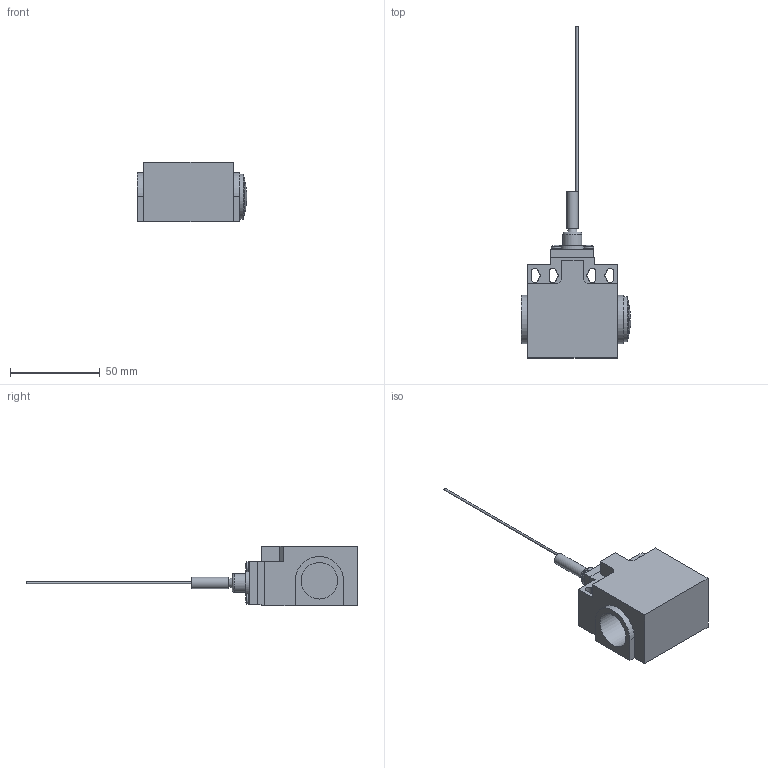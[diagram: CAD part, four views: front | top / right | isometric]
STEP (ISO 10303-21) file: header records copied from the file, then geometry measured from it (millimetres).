
FILE_DESCRIPTION((''),'2;1');
FILE_NAME('D:\Documenti_D\Corrispondenza\Comepi\Catalogo da fare\Modelli Nov 2011\DP\STEP\DP1-T91.iam.step','2011-11-17T12:05:12',(''),(''),'Autodesk Inventor 2010','Autodesk Inventor 2010','');
FILE_SCHEMA(('AUTOMOTIVE_DESIGN { 1 0 10303 214 1 1 1 1 }'));
Length unit declared in the file: millimetre
Products named in the file (5): DP1-T91; T91.ipt; DP1; tappo
Assembly tree (4 placements, depth 3):
  DP1-T91
    T91.ipt
    DP1
      DP1
      tappo
Bounding box: 60.92 x 185 x 33.3 mm (x, y, z)
Volume: 74674 mm3; surface area: 22023.9 mm2
Topology: 3 solids, 3 shells, 93 faces, 233 edges, 151 vertices
Faces by surface type: plane 55, cylinder 24, torus 7, sphere 5, cone 2
Full cylindrical faces by diameter (mm): 1.2 x1, 5.6 x4, 6.3 x1, 10.5 x1, 14.325 x1, 20.4 x1, 25 x1
Entity records: 2777 total; most frequent: DIRECTION 470, CARTESIAN_POINT 451, ORIENTED_EDGE 408, EDGE_CURVE 204, AXIS2_PLACEMENT_3D 164, VERTEX_POINT 145, VECTOR 142, LINE 142
